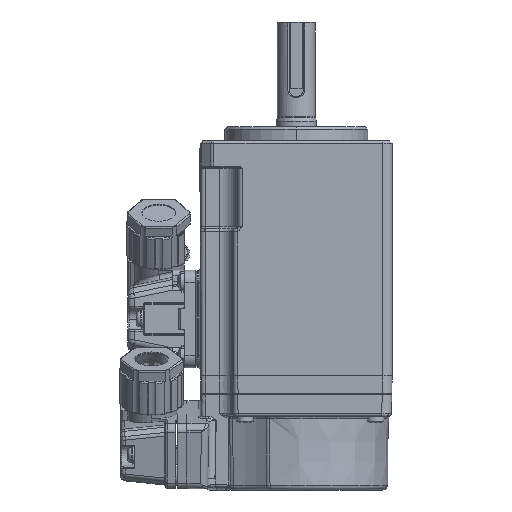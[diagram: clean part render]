
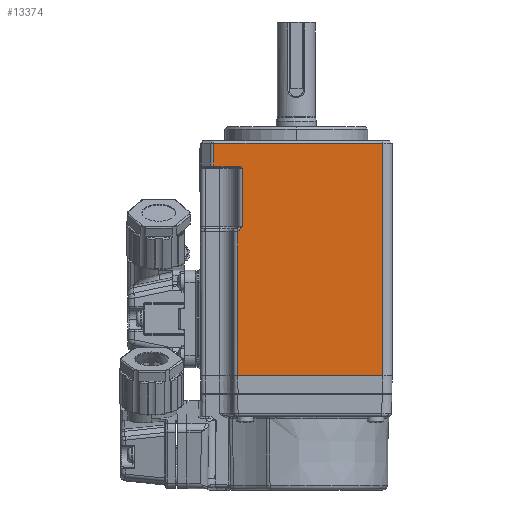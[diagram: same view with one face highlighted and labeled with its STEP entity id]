
A CAD part, left-side view. The second image highlights one B-rep face of the part: STEP entity #13374.
In plain terms, the highlighted planar face has unit normal (-1, 0, 0).
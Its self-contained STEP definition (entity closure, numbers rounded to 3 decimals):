
#812 = CARTESIAN_POINT ( 'NONE',  ( -20.15, 12.036, -11.3 ) ) ;
#1133 = VECTOR ( 'NONE', #50126, 1000. ) ;
#1633 = EDGE_CURVE ( 'NONE', #66612, #66553, #5997, .T. ) ;
#1885 = DIRECTION ( 'NONE',  ( 0., 1., 0. ) ) ;
#4064 = ORIENTED_EDGE ( 'NONE', *, *, #21816, .T. ) ;
#4253 = DIRECTION ( 'NONE',  ( 0., 0., 1. ) ) ;
#4420 = EDGE_CURVE ( 'NONE', #16937, #46134, #39248, .T. ) ;
#5997 = B_SPLINE_CURVE_WITH_KNOTS ( 'NONE', 3,
 ( #31429, #812, #32217, #62273, #25533, #50068 ),
 .UNSPECIFIED., .F., .F.,
 ( 4, 2, 4 ),
 ( 0., 0., 0.001 ),
 .UNSPECIFIED. ) ;
#6458 = CARTESIAN_POINT ( 'NONE',  ( -20.15, 17.336, -11.3 ) ) ;
#7528 = VERTEX_POINT ( 'NONE', #62493 ) ;
#7916 = DIRECTION ( 'NONE',  ( 0., -1., 0. ) ) ;
#7921 = CARTESIAN_POINT ( 'NONE',  ( -20.15, 17.336, -55.7 ) ) ;
#13374 = ADVANCED_FACE ( 'NONE', ( #39015 ), #73794, .T. ) ;
#15782 = AXIS2_PLACEMENT_3D ( 'NONE', #74200, #62732, #7916 ) ;
#15909 = LINE ( 'NONE', #27283, #25888 ) ;
#16041 = CARTESIAN_POINT ( 'NONE',  ( -20.15, 11.31, -11.7 ) ) ;
#16937 = VERTEX_POINT ( 'NONE', #38192 ) ;
#17031 = CARTESIAN_POINT ( 'NONE',  ( -20.15, 11.31, -24. ) ) ;
#19169 = ORIENTED_EDGE ( 'NONE', *, *, #71499, .F. ) ;
#19327 = DIRECTION ( 'NONE',  ( 0., 0., -1. ) ) ;
#19996 = LINE ( 'NONE', #75204, #40408 ) ;
#20064 = EDGE_CURVE ( 'NONE', #40982, #7528, #15909, .T. ) ;
#20567 = ORIENTED_EDGE ( 'NONE', *, *, #26528, .T. ) ;
#20624 = DIRECTION ( 'NONE',  ( 0., 0., -1. ) ) ;
#21816 = EDGE_CURVE ( 'NONE', #68561, #66612, #43050, .T. ) ;
#22396 = CARTESIAN_POINT ( 'NONE',  ( -20.15, 11.903, -24.706 ) ) ;
#24458 = CARTESIAN_POINT ( 'NONE',  ( -20.15, 11.31, -11.3 ) ) ;
#25533 = CARTESIAN_POINT ( 'NONE',  ( -20.15, 11.445, -11.604 ) ) ;
#25888 = VECTOR ( 'NONE', #20624, 1000. ) ;
#26131 = ORIENTED_EDGE ( 'NONE', *, *, #74118, .T. ) ;
#26371 = CARTESIAN_POINT ( 'NONE',  ( -20.15, 11.31, -24.5 ) ) ;
#26528 = EDGE_CURVE ( 'NONE', #46134, #68561, #43024, .T. ) ;
#27283 = CARTESIAN_POINT ( 'NONE',  ( -20.15, 12.31, -55.7 ) ) ;
#27298 = VERTEX_POINT ( 'NONE', #17031 ) ;
#31429 = CARTESIAN_POINT ( 'NONE',  ( -20.15, 12.204, -11.3 ) ) ;
#32217 = CARTESIAN_POINT ( 'NONE',  ( -20.15, 11.874, -11.357 ) ) ;
#33047 = CARTESIAN_POINT ( 'NONE',  ( -20.15, 11.31, -24. ) ) ;
#33954 = B_SPLINE_CURVE_WITH_KNOTS ( 'NONE', 3,
 ( #33047, #63486, #44971, #22396, #57187, #38611 ),
 .UNSPECIFIED., .F., .F.,
 ( 4, 2, 4 ),
 ( 0., 0.001, 0.001 ),
 .UNSPECIFIED. ) ;
#34947 = LINE ( 'NONE', #52823, #63951 ) ;
#35152 = ORIENTED_EDGE ( 'NONE', *, *, #20064, .T. ) ;
#35234 = ORIENTED_EDGE ( 'NONE', *, *, #1633, .T. ) ;
#36294 = DIRECTION ( 'NONE',  ( 0., -1., 0. ) ) ;
#38192 = CARTESIAN_POINT ( 'NONE',  ( -20.15, -18.15, -6.5 ) ) ;
#38611 = CARTESIAN_POINT ( 'NONE',  ( -20.15, 12.31, -24.924 ) ) ;
#39015 = FACE_OUTER_BOUND ( 'NONE', #71880, .T. ) ;
#39248 = LINE ( 'NONE', #55917, #69325 ) ;
#40408 = VECTOR ( 'NONE', #4253, 1000. ) ;
#40982 = VERTEX_POINT ( 'NONE', #49913 ) ;
#42179 = EDGE_CURVE ( 'NONE', #66553, #27298, #74177, .T. ) ;
#42332 = VECTOR ( 'NONE', #36294, 1000. ) ;
#42402 = EDGE_CURVE ( 'NONE', #27298, #40982, #33954, .T. ) ;
#43024 = LINE ( 'NONE', #7921, #71890 ) ;
#43050 = LINE ( 'NONE', #24458, #42332 ) ;
#44971 = CARTESIAN_POINT ( 'NONE',  ( -20.15, 11.578, -24.379 ) ) ;
#45948 = ORIENTED_EDGE ( 'NONE', *, *, #42402, .T. ) ;
#46134 = VERTEX_POINT ( 'NONE', #68882 ) ;
#48305 = VERTEX_POINT ( 'NONE', #57548 ) ;
#49913 = CARTESIAN_POINT ( 'NONE',  ( -20.15, 12.31, -24.924 ) ) ;
#50068 = CARTESIAN_POINT ( 'NONE',  ( -20.15, 11.31, -11.7 ) ) ;
#50126 = DIRECTION ( 'NONE',  ( 0., 0., -1. ) ) ;
#52823 = CARTESIAN_POINT ( 'NONE',  ( -20.15, -20.15, -55.4 ) ) ;
#55917 = CARTESIAN_POINT ( 'NONE',  ( -20.15, -20.15, -6.5 ) ) ;
#57187 = CARTESIAN_POINT ( 'NONE',  ( -20.15, 12.092, -24.844 ) ) ;
#57548 = CARTESIAN_POINT ( 'NONE',  ( -20.15, -18.15, -55.4 ) ) ;
#57863 = CARTESIAN_POINT ( 'NONE',  ( -20.15, 12.204, -11.3 ) ) ;
#58808 = ORIENTED_EDGE ( 'NONE', *, *, #42179, .T. ) ;
#62273 = CARTESIAN_POINT ( 'NONE',  ( -20.15, 11.581, -11.508 ) ) ;
#62493 = CARTESIAN_POINT ( 'NONE',  ( -20.15, 12.31, -55.4 ) ) ;
#62732 = DIRECTION ( 'NONE',  ( -1., 0., 0. ) ) ;
#63486 = CARTESIAN_POINT ( 'NONE',  ( -20.15, 11.443, -24.189 ) ) ;
#63951 = VECTOR ( 'NONE', #76778, 1000. ) ;
#66553 = VERTEX_POINT ( 'NONE', #16041 ) ;
#66612 = VERTEX_POINT ( 'NONE', #57863 ) ;
#68561 = VERTEX_POINT ( 'NONE', #6458 ) ;
#68882 = CARTESIAN_POINT ( 'NONE',  ( -20.15, 17.336, -6.5 ) ) ;
#69325 = VECTOR ( 'NONE', #1885, 1000. ) ;
#71499 = EDGE_CURVE ( 'NONE', #48305, #7528, #34947, .T. ) ;
#71880 = EDGE_LOOP ( 'NONE', ( #19169, #26131, #74248, #20567, #4064, #35234, #58808, #45948, #35152 ) ) ;
#71890 = VECTOR ( 'NONE', #19327, 1000. ) ;
#73794 = PLANE ( 'NONE',  #15782 ) ;
#74118 = EDGE_CURVE ( 'NONE', #48305, #16937, #19996, .T. ) ;
#74177 = LINE ( 'NONE', #26371, #1133 ) ;
#74200 = CARTESIAN_POINT ( 'NONE',  ( -20.15, -20.15, -55.7 ) ) ;
#74248 = ORIENTED_EDGE ( 'NONE', *, *, #4420, .T. ) ;
#75204 = CARTESIAN_POINT ( 'NONE',  ( -20.15, -18.15, -55.7 ) ) ;
#76778 = DIRECTION ( 'NONE',  ( 0., 1., 0. ) ) ;
